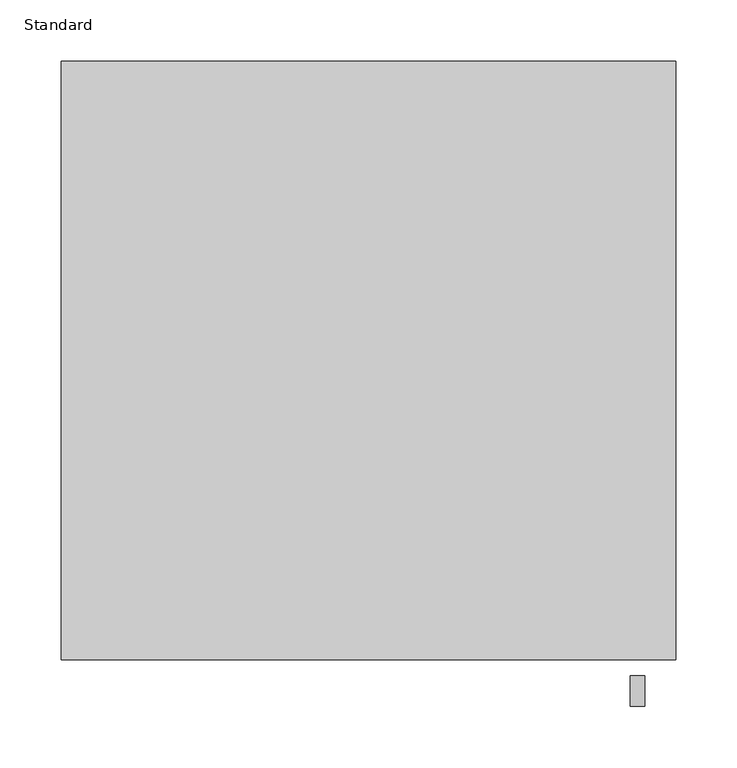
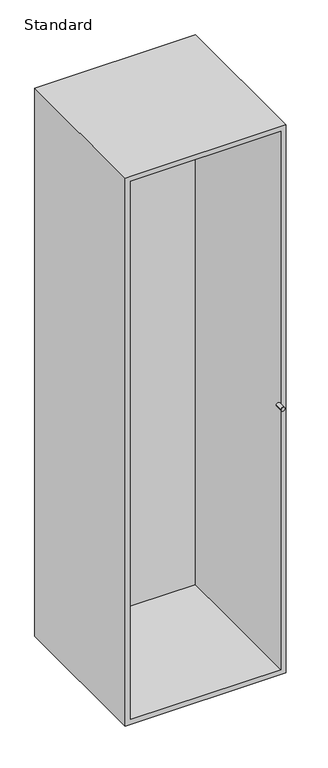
"""IFC4 building model written with IfcOpenShell, lengths in millimetres: furniture geometry, X_Locker-Duracube-EOT Bay : Standard."""

from ifc_helpers import new_model, si_unit, point, frame, frame_2d, origin, place, context, project, spatial, circle_curve, trimmed, segment, composite_curve, outline, extrude, faceted_brep, source, transform, mapped, element, save


def standard_540d4d76(model_context):
    return source(origin(), model_context, "Body", "SolidModel", [
        extrude(outline(composite_curve([segment(trimmed(circle_curve(frame_2d((900.0, 263.7003264)), 6.0), [point((900.0, 257.7003264))], [point((900.0, 269.7003264))], False, "CARTESIAN"), True, "CONTINUOUS"), segment(trimmed(circle_curve(frame_2d((900.0, 263.7003264)), 6.0), [point((900.0, 269.7003264))], [point((900.0, 257.7003264))], False, "CARTESIAN"), True, "CONTINUOUS")], self_intersect=False)), frame((0.0, -525.0, 0.0), z_axis=(0.0, 1.0, 0.0), x_axis=(0.0, 0.0, 1.0)), (0.0, 0.0, 1.0), 25.0),
        faceted_brep([(294.7003264, -487.0, 1800.0), (-205.2996736, -487.0, 1800.0), (-205.2996736, -487.0, 0.0), (294.7003264, -487.0, 0.0), (278.7003264, -487.0, 1784.0), (278.7003264, -487.0, 16.0), (-189.2996736, -487.0, 16.0), (-189.2996736, -487.0, 1784.0), (-205.2996736, 0.0, 1800.0), (-205.2996736, 0.0, 0.0), (294.7003264, 0.0, 0.0), (294.7003264, 0.0, 1800.0), (278.7003264, -26.0, 1784.0), (278.7003264, -26.0, 16.0), (278.7003264, 0.0, 1784.0), (278.7003264, 0.0, 16.0), (278.7003264, -10.0, 16.0), (278.7003264, -10.0, 1784.0), (-189.2996736, -26.0, 16.0), (-189.2996736, 0.0, 16.0), (-189.2996736, -10.0, 16.0), (-189.2996736, -26.0, 1784.0), (-189.2996736, 0.0, 1784.0), (-189.2996736, -10.0, 1784.0)], [[[0, 1, 2, 3], [4, 5, 6, 7]], [[2, 1, 8, 9]], [[3, 2, 9, 10]], [[0, 3, 10, 11]], [[5, 4, 12, 13]], [[14, 15, 16, 17]], [[6, 5, 13, 18]], [[15, 19, 20, 16]], [[7, 6, 18, 21]], [[19, 22, 23, 20]], [[11, 10, 9, 8], [14, 22, 19, 15]], [[13, 12, 21, 18]], [[17, 16, 20, 23]], [[1, 0, 11, 8]], [[4, 7, 21, 12]], [[22, 14, 17, 23]]]),
    ])


if __name__ == "__main__":
    model = new_model("IFC4")
    model_context = context("Model", 3, world=origin())
    ifc_project = project(units=[si_unit("LENGTHUNIT", "METRE", prefix="MILLI")], contexts=[model_context])
    site = spatial("IfcSite", under=ifc_project)
    building = spatial("IfcBuilding", under=site)
    placement = place(None, origin())
    standard_shape = standard_540d4d76(model_context)
    element("IfcFurniture", 1, ObjectType="X_Locker-Duracube-EOT Bay : Standard", at=placement, inside=building, context=model_context, shape_type="MappedRepresentation", body=[
        mapped(standard_shape, transform((0.0, 0.0, 0.0), x_axis=(1.0, 0.0, 0.0), y_axis=(0.0, 1.0, 0.0), z_axis=(0.0, 0.0, 1.0))),
    ])
    save(model, "model.ifc")
